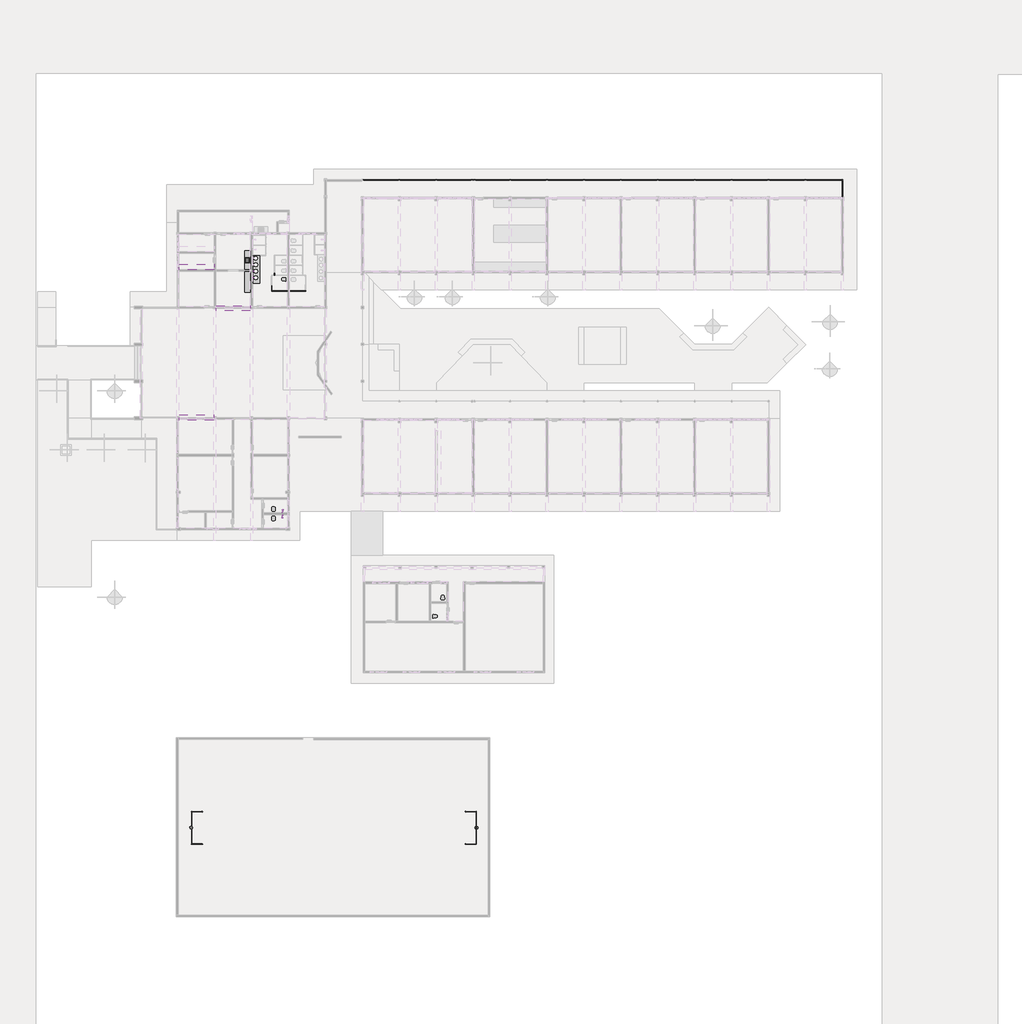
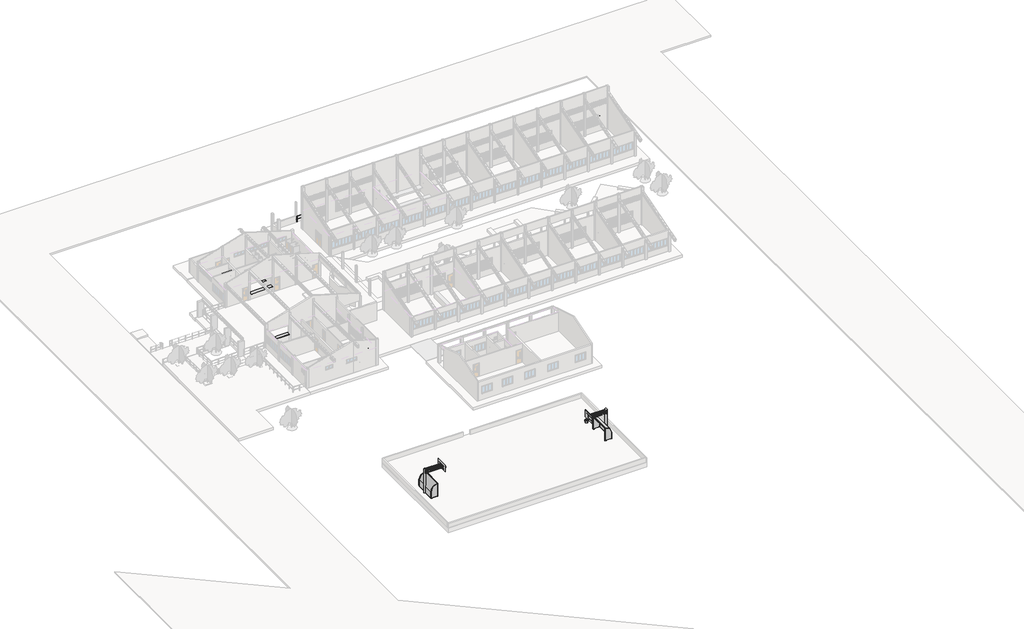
# One storey, part 11 of 12: 10 flow terminals, 10 furniture elements, 4 proxies, 1 railing.
"""IFC4 building model written with IfcOpenShell, lengths in millimetres."""

from ifc_helpers import new_model, si_unit, point, frame, frame_2d, origin, place, context, project, spatial, polyline, circle_curve, ellipse_curve, trimmed, segment, composite_curve, outline, extrude, transform, mapped, element, save
from ifc_brep_helpers import plane_surface, cylinder_surface, advanced_brep
from components import specialty_equipment_e171445e, specialty_equipment_3fbfa655, specialty_equipment_ff35014a, specialty_equipment_ced57a1c, flow_terminal_f470bb56, flow_terminal_20a74c16, flow_terminal_5b9333c3, flow_terminal_6ee619d6, furniture_a3a69743, furniture_79098391, furniture_e4452679, furniture_773e04f6, furniture_dfb6f5b8, furniture_29a2d88c, furniture_17abe1a5

model = new_model("IFC4")

# Units and contexts
model_context = context("Model", 3, world=origin())
ifc_project = project(units=[si_unit("LENGTHUNIT", "METRE", prefix="MILLI")], contexts=[model_context])

# Site, building, storey
site = spatial("IfcSite", under=ifc_project)
building = spatial("IfcBuilding", under=site)
storey = spatial("IfcBuildingStorey", under=building, Name="Nível 1", Elevation=0.0)

# Proxies
placement = place(None, origin())
specialty_equipment_shape = specialty_equipment_e171445e(model_context)
element("IfcBuildingElementProxy", 1, Name="FDE_QE39_QE40_TabelaDeBasquete : QE39_LajeAlveolar", ObjectType="FDE_QE39_QE40_TabelaDeBasquete : QE39_LajeAlveolar", at=placement, inside=storey, context=model_context, shape_type="MappedRepresentation", body=[
    mapped(specialty_equipment_shape, transform((-13439.3145418, -23010.0135509, 550.0), x_axis=(0.0, 1.0, 0.0), y_axis=(-1.0, 0.0, 0.0), z_axis=(0.0, 0.0, 1.0))),
])
specialty_equipment_2_shape = specialty_equipment_3fbfa655(model_context)
element("IfcBuildingElementProxy", 2, Name="FDE_QE03_QE45_QE46_QE47_TraveFutebolSalão : QE46_LajeAlveolar", ObjectType="FDE_QE03_QE45_QE46_QE47_TraveFutebolSalão : QE46_LajeAlveolar", at=placement, inside=storey, context=model_context, shape_type="MappedRepresentation", body=[
    mapped(specialty_equipment_2_shape, transform((-12399.3145418, -23010.0135509, 550.0), x_axis=(0.0, 1.0, 0.0), y_axis=(-1.0, 0.0, 0.0), z_axis=(0.0, 0.0, 1.0))),
])
specialty_equipment_3_shape = specialty_equipment_ff35014a(model_context)
element("IfcBuildingElementProxy", 3, Name="FDE_QE03_QE45_QE46_QE47_TraveFutebolSalão : QE46_LajeAlveolar", ObjectType="FDE_QE03_QE45_QE46_QE47_TraveFutebolSalão : QE46_LajeAlveolar", at=placement, inside=storey, context=model_context, shape_type="MappedRepresentation", body=[
    mapped(specialty_equipment_3_shape, transform((12579.1860657, -23010.0135509, 495.0), x_axis=(0.0, 1.0, 0.0), y_axis=(-1.0, 0.0, 0.0), z_axis=(0.0, 0.0, 1.0))),
])
specialty_equipment_4_shape = specialty_equipment_ced57a1c(model_context)
element("IfcBuildingElementProxy", 4, Name="FDE_QE39_QE40_TabelaDeBasquete : QE39_LajeAlveolar", ObjectType="FDE_QE39_QE40_TabelaDeBasquete : QE39_LajeAlveolar", at=placement, inside=storey, context=model_context, shape_type="MappedRepresentation", body=[
    mapped(specialty_equipment_4_shape, transform((13619.1860657, -23010.0135509, 495.0), x_axis=(0.0, 1.0, 0.0), y_axis=(-1.0, 0.0, 0.0), z_axis=(0.0, 0.0, 1.0))),
])

# Flow terminals
flow_terminal_shape = flow_terminal_f470bb56(model_context)
element("IfcFlowTerminal", 5, ObjectType="Deca Torneira Lavatório : Torneira de Banheiro", at=placement, inside=storey, context=model_context, shape_type="MappedRepresentation", body=[
    mapped(flow_terminal_shape, transform((-7687.9228572, 29773.0485366, 1200.0), x_axis=(-0.004489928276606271, 0.9999899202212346, 0.0), y_axis=(-0.9999899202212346, -0.004489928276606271, 0.0), z_axis=(0.0, 0.0, 1.0))),
])
element("IfcFlowTerminal", 6, ObjectType="Deca Torneira Lavatório : Torneira de Banheiro", at=placement, inside=storey, context=model_context, shape_type="MappedRepresentation", body=[
    mapped(flow_terminal_shape, transform((-7685.0717528, 29155.5549372, 1200.0), x_axis=(-0.004489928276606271, 0.9999899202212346, 0.0), y_axis=(-0.9999899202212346, -0.004489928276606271, 0.0), z_axis=(0.0, 0.0, 1.0))),
])
flow_terminal_2_shape = flow_terminal_20a74c16(model_context)
element("IfcFlowTerminal", 7, ObjectType="Chuveiro : Chuveiro", at=placement, inside=storey, context=model_context, shape_type="MappedRepresentation", body=[
    mapped(flow_terminal_2_shape, transform((-4768.3111843, 6846.1710904, 2300.0), x_axis=(-1.0, 0.0, 0.0), y_axis=(0.0, 0.0, 1.0), z_axis=(0.0, 1.0, 0.0))),
])
element("IfcFlowTerminal", 8, ObjectType="Chuveiro : Chuveiro", at=placement, inside=storey, context=model_context, shape_type="MappedRepresentation", body=[
    mapped(flow_terminal_2_shape, transform((-4768.3111843, 6696.1710904, 2300.0), x_axis=(1.0, 0.0, 0.0), y_axis=(0.0, 0.0, 1.0), z_axis=(0.0, -1.0, 0.0))),
])
flow_terminal_3_shape = flow_terminal_5b9333c3(model_context)
element("IfcFlowTerminal", 9, ObjectType="Cuba_Cozinha : Cuba 40x50", at=placement, inside=storey, context=model_context, shape_type="MappedRepresentation", body=[
    mapped(flow_terminal_3_shape, transform((-8128.4714475, 30806.1862478, 300.0), x_axis=(0.0, -1.0, 0.0), y_axis=(1.0, 0.0, 0.0), z_axis=(0.0, 0.0, 1.0))),
])
flow_terminal_4_shape = flow_terminal_6ee619d6(model_context)
element("IfcFlowTerminal", 10, ObjectType="Deca_Shared_Assento_P.8 : AP.80_Branco Gelo GE17", at=placement, inside=storey, context=model_context, shape_type="MappedRepresentation", body=[
    mapped(flow_terminal_4_shape, transform((-4443.7722934, 28991.3483065, 680.0), x_axis=(0.0, -1.0, 0.0), y_axis=(0.0, 0.0, 1.0), z_axis=(-1.0, 0.0, 0.0))),
])
element("IfcFlowTerminal", 11, ObjectType="Deca_Shared_Assento_P.8 : AP.80_Branco Gelo GE17", at=placement, inside=storey, context=model_context, shape_type="MappedRepresentation", body=[
    mapped(flow_terminal_4_shape, transform((-5638.3111843, 6525.8702445, 680.0), x_axis=(1.0, 0.0, 0.0), y_axis=(0.0, 0.0, 1.0), z_axis=(0.0, -1.0, 0.0))),
])
element("IfcFlowTerminal", 12, ObjectType="Deca_Shared_Assento_P.8 : AP.80_Branco Gelo GE17", at=placement, inside=storey, context=model_context, shape_type="MappedRepresentation", body=[
    mapped(flow_terminal_4_shape, transform((-5638.3111843, 7016.4719363, 680.0), x_axis=(-1.0, 0.0, 0.0), y_axis=(0.0, 0.0, 1.0), z_axis=(0.0, 1.0, 0.0))),
])
element("IfcFlowTerminal", 13, ObjectType="Deca_Shared_Assento_P.8 : AP.80_Branco Gelo GE17", at=placement, inside=storey, context=model_context, shape_type="MappedRepresentation", body=[
    mapped(flow_terminal_4_shape, transform((9446.8293984, -2958.8137522, 680.0), x_axis=(0.0, 1.0, 0.0), y_axis=(0.0, 0.0, 1.0), z_axis=(1.0, 0.0, 0.0))),
])
element("IfcFlowTerminal", 14, ObjectType="Deca_Shared_Assento_P.8 : AP.80_Branco Gelo GE17", at=placement, inside=storey, context=model_context, shape_type="MappedRepresentation", body=[
    mapped(flow_terminal_4_shape, transform((10416.5285525, -1388.4435784, 680.0), x_axis=(-1.0, 0.0, 0.0), y_axis=(0.0, 0.0, 1.0), z_axis=(0.0, 1.0, 0.0))),
])

# Furniture
element("IfcFurniture", 15, ObjectType="Bancada_balcao : Bancada cantina", at=placement, inside=storey, context=model_context, shape_type="SweptSolid", body=[
    extrude(outline(polyline([(-8373.4714475, 31706.1862478), (-7773.4714475, 31706.1862478), (-7773.4714475, 29906.1862478), (-8373.4714475, 29906.1862478), (-8373.4714475, 31706.1862478)]), holes=[composite_curve([segment(trimmed(circle_curve(frame_2d((-8323.4714475, 31051.1862478)), 5.0), [point((-8323.4714475, 31056.1862478))], [point((-8328.4714475, 31051.1862478))], True, "CARTESIAN"), True, "CONTINUOUS"), segment(polyline([(-8328.4714475, 31051.1862478), (-8328.4714475, 30561.1862478)]), True, "CONTINUOUS"), segment(trimmed(circle_curve(frame_2d((-8323.4714475, 30561.1862478)), 5.0), [point((-8328.4714475, 30561.1862478))], [point((-8323.4714475, 30556.1862478))], True, "CARTESIAN"), True, "CONTINUOUS"), segment(polyline([(-8323.4714475, 30556.1862478), (-7933.4714475, 30556.1862478)]), True, "CONTINUOUS"), segment(trimmed(circle_curve(frame_2d((-7933.4714475, 30561.1862478)), 5.0), [point((-7933.4714475, 30556.1862478))], [point((-7928.4714475, 30561.1862478))], True, "CARTESIAN"), True, "CONTINUOUS"), segment(polyline([(-7928.4714475, 30561.1862478), (-7928.4714475, 31051.1862478)]), True, "CONTINUOUS"), segment(trimmed(circle_curve(frame_2d((-7933.4714475, 31051.1862478)), 5.0), [point((-7928.4714475, 31051.1862478))], [point((-7933.4714475, 31056.1862478))], True, "CARTESIAN"), True, "CONTINUOUS"), segment(polyline([(-7933.4714475, 31056.1862478), (-8323.4714475, 31056.1862478)]), True, "CONTINUOUS")], self_intersect=False)]), frame((0.0, 0.0, 1180.0), z_axis=(0.0, 0.0, 1.0), x_axis=(1.0, 0.0, 0.0)), (0.0, 0.0, 1.0), 20.0),
])
element("IfcFurniture", 16, ObjectType="Bancada_balcao : Bancada cantina", at=placement, inside=storey, context=model_context, shape_type="SweptSolid", body=[
    extrude(outline(polyline([(-7623.4714475, 31256.1862478), (-6923.5268603, 31256.1862478), (-6923.5268603, 28609.6163314), (-7623.4714475, 28609.6163314), (-7623.4714475, 31256.1862478)]), holes=[composite_curve([segment(trimmed(circle_curve(frame_2d((-7329.9359136, 31007.6507139)), 182.5445298), [point((-7512.4804435, 31007.6507139))], [point((-7147.3913838, 31007.6507139))], True, "CARTESIAN"), True, "CONTINUOUS"), segment(trimmed(circle_curve(frame_2d((-7329.9359136, 31007.6507139)), 182.5445298), [point((-7147.3913838, 31007.6507139))], [point((-7512.4804435, 31007.6507139))], True, "CARTESIAN"), True, "CONTINUOUS")], self_intersect=False), composite_curve([segment(trimmed(circle_curve(frame_2d((-7323.4714475, 30381.1862478)), 182.5445298), [point((-7506.0159774, 30381.1862478))], [point((-7140.9269177, 30381.1862478))], True, "CARTESIAN"), True, "CONTINUOUS"), segment(trimmed(circle_curve(frame_2d((-7323.4714475, 30381.1862478)), 182.5445298), [point((-7140.9269177, 30381.1862478))], [point((-7506.0159774, 30381.1862478))], True, "CARTESIAN"), True, "CONTINUOUS")], self_intersect=False), composite_curve([segment(trimmed(circle_curve(frame_2d((-7328.4714475, 29771.1862478)), 182.5445298), [point((-7511.0159774, 29771.1862478))], [point((-7145.9269177, 29771.1862478))], True, "CARTESIAN"), True, "CONTINUOUS"), segment(trimmed(circle_curve(frame_2d((-7328.4714475, 29771.1862478)), 182.5445298), [point((-7145.9269177, 29771.1862478))], [point((-7511.0159774, 29771.1862478))], True, "CARTESIAN"), True, "CONTINUOUS")], self_intersect=False), composite_curve([segment(trimmed(circle_curve(frame_2d((-7328.2874863, 29158.0196379)), 182.5445298), [point((-7510.8320161, 29158.0196379))], [point((-7145.7429565, 29158.0196379))], True, "CARTESIAN"), True, "CONTINUOUS"), segment(trimmed(circle_curve(frame_2d((-7328.2874863, 29158.0196379)), 182.5445298), [point((-7145.7429565, 29158.0196379))], [point((-7510.8320161, 29158.0196379))], True, "CARTESIAN"), True, "CONTINUOUS")], self_intersect=False)]), frame((0.0, 0.0, 1180.0), z_axis=(0.0, 0.0, 1.0), x_axis=(1.0, 0.0, 0.0)), (0.0, 0.0, 1.0), 20.0),
])
furniture_shape = furniture_a3a69743(model_context)
element("IfcFurniture", 17, ObjectType="Divisoria_Lateral Fechada : Divisoria_Lateral Fechada_130x180", at=placement, inside=storey, context=model_context, shape_type="MappedRepresentation", body=[
    mapped(furniture_shape, transform((-2624.3644069, 27922.3932502, 300.0), x_axis=(0.0, -1.0, 0.0), y_axis=(1.0, 0.0, 0.0), z_axis=(0.0, 0.0, 1.0))),
])
furniture_2_shape = furniture_79098391(model_context)
element("IfcFurniture", 18, ObjectType="Divisoria_Lateral Fechada : Divisoria_Lateral Fechada_130x180", at=placement, inside=storey, context=model_context, shape_type="MappedRepresentation", body=[
    mapped(furniture_2_shape, transform((-5489.2711211, 29586.1862478, 300.0), x_axis=(-1.0, 0.0, 0.0), y_axis=(0.0, -1.0, 0.0), z_axis=(0.0, 0.0, 1.0))),
])
furniture_3_shape = furniture_e4452679(model_context)
element("IfcFurniture", 19, ObjectType="Divisoria_Lateral Fechada : Divisoria_Lateral Fechada_130x180", at=placement, inside=storey, context=model_context, shape_type="MappedRepresentation", body=[
    mapped(furniture_3_shape, transform((-5764.2626645, 28418.9479891, 300.0), x_axis=(-1.0, 0.0, 0.0), y_axis=(0.0, -1.0, 0.0), z_axis=(0.0, 0.0, 1.0))),
])
furniture_4_shape = furniture_773e04f6(model_context)
element("IfcFurniture", 20, ObjectType="Divisoria_Lateral Fechada : Divisoria_Lateral Fechada_130x180", at=placement, inside=storey, context=model_context, shape_type="MappedRepresentation", body=[
    mapped(furniture_4_shape, transform((-5772.5784882, 27922.3932502, 300.0), x_axis=(0.0, -1.0, 0.0), y_axis=(1.0, 0.0, 0.0), z_axis=(0.0, 0.0, 1.0))),
])
furniture_5_shape = furniture_dfb6f5b8(model_context)
element("IfcFurniture", 21, ObjectType="Bancada_balcao : Bancada cantina", at=placement, inside=storey, context=model_context, shape_type="MappedRepresentation", body=[
    mapped(furniture_5_shape, transform((-9493.2271867, 26506.1797638, 420.0), x_axis=(1.0, 0.0, 0.0), y_axis=(0.0, 1.0, 0.0), z_axis=(0.0, 0.0, 1.0))),
])
element("IfcFurniture", 22, ObjectType="Bancada_balcao : Bancada cantina", at=placement, inside=storey, context=model_context, shape_type="MappedRepresentation", body=[
    mapped(furniture_5_shape, transform((-12993.2271867, 16146.0416644, 420.0), x_axis=(1.0, 0.0, 0.0), y_axis=(0.0, 1.0, 0.0), z_axis=(0.0, 0.0, 1.0))),
])
furniture_6_shape = furniture_29a2d88c(model_context)
element("IfcFurniture", 23, ObjectType="Bancada_balcao : Bancada cantina", at=placement, inside=storey, context=model_context, shape_type="MappedRepresentation", body=[
    mapped(furniture_6_shape, transform((-8373.4714475, 28711.4859213, 300.0), x_axis=(0.0, 1.0, 0.0), y_axis=(-1.0, 0.0, 0.0), z_axis=(0.0, 0.0, 1.0))),
])
furniture_7_shape = furniture_17abe1a5(model_context)
element("IfcFurniture", 24, ObjectType="Prateleira : Prateleira 6", at=placement, inside=storey, context=model_context, shape_type="MappedRepresentation", body=[
    mapped(furniture_7_shape, transform((-13373.0089466, 30380.7862478, 1300.0), x_axis=(1.0, 0.0, 0.0), y_axis=(0.0, 1.0, 0.0), z_axis=(0.0, 0.0, 1.0))),
])

# Railing
element("IfcRailing", 25, ObjectType="900 mm Tubulação", at=placement, inside=storey, context=model_context, shape_type="SolidModel", body=[
    advanced_brep(
    [(48271.5285525, 36781.1862478, 1180.0), (48301.5285525, 36781.1862478, 1180.0), (48331.5285525, 36781.1862478, 1180.0), (48311.5285525, 36781.1862478, 1200.0), (48291.5285525, 36781.1862478, 1200.0), (2876.5285522, 38401.1862478, 1180.0), (2876.5285522, 38421.1862478, 1200.0), (2876.5285522, 38441.1862478, 1200.0), (2876.5285522, 38461.1862478, 1180.0), (2876.5285522, 38431.1862478, 1180.0), (48271.5285525, 38401.1862478, 1180.0), (48301.5285525, 38431.1862478, 1180.0), (48331.5285525, 38461.1862478, 1180.0), (48311.5285525, 38441.1862478, 1200.0), (48291.5285525, 38421.1862478, 1200.0)],
    [
        (0, 1),
        (1, 2),
        (2, 3, circle_curve(frame((48311.5285525, 36781.1862478, 1180.0), z_axis=(0.0, -1.0, 0.0), x_axis=(-1.0, 0.0, 0.0)), 20.0)),
        (3, 4),
        (4, 0, circle_curve(frame((48291.5285525, 36781.1862478, 1180.0), z_axis=(0.0, -1.0, 0.0), x_axis=(-1.0, 0.0, 0.0)), 20.0)),
        (5, 6, circle_curve(frame((2876.5285522, 38421.1862478, 1180.0), z_axis=(-1.0, 0.0, 0.0), x_axis=(0.0, -1.0, 0.0)), 20.0)),
        (6, 7),
        (7, 8, circle_curve(frame((2876.5285522, 38441.1862478, 1180.0), z_axis=(-1.0, 0.0, 0.0), x_axis=(0.0, -1.0, 0.0)), 20.0)),
        (8, 9),
        (9, 5),
        (0, 10),
        (10, 11),
        (11, 1),
        (11, 12),
        (12, 2),
        (12, 13, ellipse_curve(frame((48311.5285525, 38441.1862478, 1180.0), z_axis=(0.7071067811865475, -0.7071067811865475, 0.0), x_axis=(-0.7071067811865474, -0.7071067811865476, 0.0)), 28.2842712, 20.0)),
        (13, 3),
        (13, 14),
        (14, 4),
        (14, 10, ellipse_curve(frame((48291.5285525, 38421.1862478, 1180.0), z_axis=(0.7071067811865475, -0.7071067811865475, 0.0), x_axis=(-0.7071067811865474, -0.7071067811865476, 0.0)), 28.2842712, 20.0)),
        (10, 5),
        (9, 11),
        (8, 12),
        (7, 13),
        (6, 14),
    ],
    [
        plane_surface(frame((48301.5285525, 36781.1862478, 1200.0), z_axis=(0.0, -1.0, 0.0), x_axis=(0.0, 0.0, 1.0))),
        plane_surface(frame((2876.5285522, 38431.1862478, 1200.0), z_axis=(-1.0, 0.0, 0.0), x_axis=(0.0, -1.0, 0.0))),
        plane_surface(frame((48271.5285525, 36781.1862478, 1180.0), z_axis=(0.0, 0.0, -1.0), x_axis=(0.0, 1.0, 0.0))),
        plane_surface(frame((48301.5285525, 36781.1862478, 1180.0), z_axis=(0.0, 0.0, -1.0), x_axis=(0.0, 1.0, 0.0))),
        cylinder_surface(frame((48311.5285525, 36781.1862478, 1180.0), z_axis=(0.0, -1.0, 0.0), x_axis=(-1.0, 0.0, 0.0)), 20.0),
        plane_surface(frame((48311.5285525, 36781.1862478, 1200.0), z_axis=(0.0, 0.0, 1.0), x_axis=(0.0, 1.0, 0.0))),
        cylinder_surface(frame((48291.5285525, 36781.1862478, 1180.0), z_axis=(0.0, -1.0, 0.0), x_axis=(-1.0, 0.0, 0.0)), 20.0),
        plane_surface(frame((48271.5285525, 38401.1862478, 1180.0), z_axis=(0.0, 0.0, -1.0), x_axis=(-1.0, 0.0, 0.0))),
        plane_surface(frame((48301.5285525, 38431.1862478, 1180.0), z_axis=(0.0, 0.0, -1.0), x_axis=(-1.0, 0.0, 0.0))),
        cylinder_surface(frame((48301.5285525, 38441.1862478, 1180.0), z_axis=(1.0, 0.0, 0.0), x_axis=(0.0, -1.0, 0.0)), 20.0),
        plane_surface(frame((48311.5285525, 38441.1862478, 1200.0), z_axis=(0.0, 0.0, 1.0), x_axis=(-1.0, 0.0, 0.0))),
        cylinder_surface(frame((48301.5285525, 38421.1862478, 1180.0), z_axis=(1.0, 0.0, 0.0), x_axis=(0.0, -1.0, 0.0)), 20.0),
    ],
    [
        (0, [[1, 2, 3, 4, 5]]),
        (1, [[6, 7, 8, 9, 10]]),
        (2, [[-1, 11, 12, 13]]),
        (3, [[-2, -13, 14, 15]]),
        (4, [[-3, -15, 16, 17]]),
        (5, [[-4, -17, 18, 19]]),
        (6, [[-5, -19, 20, -11]]),
        (7, [[-12, 21, -10, 22]]),
        (8, [[-14, -22, -9, 23]]),
        (9, [[-16, -23, -8, 24]]),
        (10, [[-18, -24, -7, 25]]),
        (11, [[-20, -25, -6, -21]]),
    ],
),
    advanced_brep(
    [(48286.5285525, 36781.1862478, 1185.0), (48316.5285525, 36781.1862478, 1185.0), (48286.5285525, 38416.1862478, 1185.0), (48316.5285525, 38446.1862478, 1185.0), (2876.5285522, 38416.1862478, 1185.0), (2876.5285522, 38446.1862478, 1185.0)],
    [
        (0, 1, circle_curve(frame((48301.5285525, 36781.1862478, 1185.0), z_axis=(0.0, -1.0, 0.0), x_axis=(1.0, 0.0, 0.0)), 15.0)),
        (1, 0, circle_curve(frame((48301.5285525, 36781.1862478, 1185.0), z_axis=(0.0, -1.0, 0.0), x_axis=(1.0, 0.0, 0.0)), 15.0)),
        (0, 2),
        (2, 3, ellipse_curve(frame((48301.5285525, 38431.1862478, 1185.0), z_axis=(0.7071067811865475, -0.7071067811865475, 0.0), x_axis=(-0.7071067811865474, -0.7071067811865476, 0.0)), 21.2132034, 15.0)),
        (3, 1),
        (3, 2, ellipse_curve(frame((48301.5285525, 38431.1862478, 1185.0), z_axis=(0.7071067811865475, -0.7071067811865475, 0.0), x_axis=(-0.7071067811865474, -0.7071067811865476, 0.0)), 21.2132034, 15.0)),
        (4, 5, circle_curve(frame((2876.5285522, 38431.1862478, 1185.0), z_axis=(-1.0, 0.0, 0.0), x_axis=(0.0, 1.0, 0.0)), 15.0)),
        (5, 4, circle_curve(frame((2876.5285522, 38431.1862478, 1185.0), z_axis=(-1.0, 0.0, 0.0), x_axis=(0.0, 1.0, 0.0)), 15.0)),
        (2, 4),
        (5, 3),
    ],
    [
        plane_surface(frame((48301.5285525, 36781.1862478, 1200.0), z_axis=(0.0, -1.0, 0.0), x_axis=(0.0, 0.0, 1.0))),
        cylinder_surface(frame((48301.5285525, 36781.1862478, 1185.0), z_axis=(0.0, -1.0, 0.0), x_axis=(1.0, 0.0, 0.0)), 15.0),
        plane_surface(frame((2876.5285522, 38431.1862478, 1200.0), z_axis=(-1.0, 0.0, 0.0), x_axis=(0.0, -1.0, 0.0))),
        cylinder_surface(frame((48301.5285525, 38431.1862478, 1185.0), z_axis=(1.0, 0.0, 0.0), x_axis=(0.0, 1.0, 0.0)), 15.0),
    ],
    [
        (0, [[1, 2]]),
        (1, [[-1, 3, 4, 5]]),
        (1, [[-2, -5, 6, -3]]),
        (2, [[7, 8]]),
        (3, [[-4, 9, -8, 10]]),
        (3, [[-6, -10, -7, -9]]),
    ],
),
    advanced_brep(
    [(48286.5285525, 36781.1862478, 735.0), (48316.5285525, 36781.1862478, 735.0), (48286.5285525, 38416.1862478, 735.0), (48316.5285525, 38446.1862478, 735.0), (2876.5285522, 38416.1862478, 735.0), (2876.5285522, 38446.1862478, 735.0)],
    [
        (0, 1, circle_curve(frame((48301.5285525, 36781.1862478, 735.0), z_axis=(0.0, -1.0, 0.0), x_axis=(1.0, 0.0, 0.0)), 15.0)),
        (1, 0, circle_curve(frame((48301.5285525, 36781.1862478, 735.0), z_axis=(0.0, -1.0, 0.0), x_axis=(1.0, 0.0, 0.0)), 15.0)),
        (0, 2),
        (2, 3, ellipse_curve(frame((48301.5285525, 38431.1862478, 735.0), z_axis=(0.7071067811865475, -0.7071067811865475, 0.0), x_axis=(-0.7071067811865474, -0.7071067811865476, 0.0)), 21.2132034, 15.0)),
        (3, 1),
        (3, 2, ellipse_curve(frame((48301.5285525, 38431.1862478, 735.0), z_axis=(0.7071067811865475, -0.7071067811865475, 0.0), x_axis=(-0.7071067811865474, -0.7071067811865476, 0.0)), 21.2132034, 15.0)),
        (4, 5, circle_curve(frame((2876.5285522, 38431.1862478, 735.0), z_axis=(-1.0, 0.0, 0.0), x_axis=(0.0, 1.0, 0.0)), 15.0)),
        (5, 4, circle_curve(frame((2876.5285522, 38431.1862478, 735.0), z_axis=(-1.0, 0.0, 0.0), x_axis=(0.0, 1.0, 0.0)), 15.0)),
        (2, 4),
        (5, 3),
    ],
    [
        plane_surface(frame((48301.5285525, 36781.1862478, 750.0), z_axis=(0.0, -1.0, 0.0), x_axis=(0.0, 0.0, 1.0))),
        cylinder_surface(frame((48301.5285525, 36781.1862478, 735.0), z_axis=(0.0, -1.0, 0.0), x_axis=(1.0, 0.0, 0.0)), 15.0),
        plane_surface(frame((2876.5285522, 38431.1862478, 750.0), z_axis=(-1.0, 0.0, 0.0), x_axis=(0.0, -1.0, 0.0))),
        cylinder_surface(frame((48301.5285525, 38431.1862478, 735.0), z_axis=(1.0, 0.0, 0.0), x_axis=(0.0, 1.0, 0.0)), 15.0),
    ],
    [
        (0, [[1, 2]]),
        (1, [[-1, 3, 4, 5]]),
        (1, [[-2, -5, 6, -3]]),
        (2, [[7, 8]]),
        (3, [[-4, 9, -8, 10]]),
        (3, [[-6, -10, -7, -9]]),
    ],
),
    extrude(outline(composite_curve([segment(trimmed(circle_curve(frame_2d((2951.5285525, 38431.1862478)), 12.5), [point((2951.5285525, 38418.6862478))], [point((2951.5285525, 38443.6862478))], False, "CARTESIAN"), True, "CONTINUOUS"), segment(trimmed(circle_curve(frame_2d((2951.5285525, 38431.1862478)), 12.5), [point((2951.5285525, 38443.6862478))], [point((2951.5285525, 38418.6862478))], False, "CARTESIAN"), True, "CONTINUOUS")], self_intersect=False)), frame((0.0, 0.0, 300.0), z_axis=(0.0, 0.0, 1.0), x_axis=(1.0, 0.0, 0.0)), (0.0, 0.0, 1.0), 870.0),
    extrude(outline(composite_curve([segment(trimmed(circle_curve(frame_2d((3951.5285525, 38431.1862478)), 12.5), [point((3951.5285525, 38418.6862478))], [point((3951.5285525, 38443.6862478))], False, "CARTESIAN"), True, "CONTINUOUS"), segment(trimmed(circle_curve(frame_2d((3951.5285525, 38431.1862478)), 12.5), [point((3951.5285525, 38443.6862478))], [point((3951.5285525, 38418.6862478))], False, "CARTESIAN"), True, "CONTINUOUS")], self_intersect=False)), frame((0.0, 0.0, 300.0), z_axis=(0.0, 0.0, 1.0), x_axis=(1.0, 0.0, 0.0)), (0.0, 0.0, 1.0), 870.0),
    extrude(outline(composite_curve([segment(trimmed(circle_curve(frame_2d((4951.5285525, 38431.1862478)), 12.5), [point((4951.5285525, 38418.6862478))], [point((4951.5285525, 38443.6862478))], False, "CARTESIAN"), True, "CONTINUOUS"), segment(trimmed(circle_curve(frame_2d((4951.5285525, 38431.1862478)), 12.5), [point((4951.5285525, 38443.6862478))], [point((4951.5285525, 38418.6862478))], False, "CARTESIAN"), True, "CONTINUOUS")], self_intersect=False)), frame((0.0, 0.0, 300.0), z_axis=(0.0, 0.0, 1.0), x_axis=(1.0, 0.0, 0.0)), (0.0, 0.0, 1.0), 870.0),
    extrude(outline(composite_curve([segment(trimmed(circle_curve(frame_2d((5951.5285525, 38431.1862478)), 12.5), [point((5951.5285525, 38418.6862478))], [point((5951.5285525, 38443.6862478))], False, "CARTESIAN"), True, "CONTINUOUS"), segment(trimmed(circle_curve(frame_2d((5951.5285525, 38431.1862478)), 12.5), [point((5951.5285525, 38443.6862478))], [point((5951.5285525, 38418.6862478))], False, "CARTESIAN"), True, "CONTINUOUS")], self_intersect=False)), frame((0.0, 0.0, 300.0), z_axis=(0.0, 0.0, 1.0), x_axis=(1.0, 0.0, 0.0)), (0.0, 0.0, 1.0), 870.0),
    extrude(outline(composite_curve([segment(trimmed(circle_curve(frame_2d((6951.5285525, 38431.1862478)), 12.5), [point((6951.5285525, 38418.6862478))], [point((6951.5285525, 38443.6862478))], False, "CARTESIAN"), True, "CONTINUOUS"), segment(trimmed(circle_curve(frame_2d((6951.5285525, 38431.1862478)), 12.5), [point((6951.5285525, 38443.6862478))], [point((6951.5285525, 38418.6862478))], False, "CARTESIAN"), True, "CONTINUOUS")], self_intersect=False)), frame((0.0, 0.0, 300.0), z_axis=(0.0, 0.0, 1.0), x_axis=(1.0, 0.0, 0.0)), (0.0, 0.0, 1.0), 870.0),
    extrude(outline(composite_curve([segment(trimmed(circle_curve(frame_2d((7951.5285525, 38431.1862478)), 12.5), [point((7951.5285525, 38418.6862478))], [point((7951.5285525, 38443.6862478))], False, "CARTESIAN"), True, "CONTINUOUS"), segment(trimmed(circle_curve(frame_2d((7951.5285525, 38431.1862478)), 12.5), [point((7951.5285525, 38443.6862478))], [point((7951.5285525, 38418.6862478))], False, "CARTESIAN"), True, "CONTINUOUS")], self_intersect=False)), frame((0.0, 0.0, 300.0), z_axis=(0.0, 0.0, 1.0), x_axis=(1.0, 0.0, 0.0)), (0.0, 0.0, 1.0), 870.0),
    extrude(outline(composite_curve([segment(trimmed(circle_curve(frame_2d((8951.5285525, 38431.1862478)), 12.5), [point((8951.5285525, 38418.6862478))], [point((8951.5285525, 38443.6862478))], False, "CARTESIAN"), True, "CONTINUOUS"), segment(trimmed(circle_curve(frame_2d((8951.5285525, 38431.1862478)), 12.5), [point((8951.5285525, 38443.6862478))], [point((8951.5285525, 38418.6862478))], False, "CARTESIAN"), True, "CONTINUOUS")], self_intersect=False)), frame((0.0, 0.0, 300.0), z_axis=(0.0, 0.0, 1.0), x_axis=(1.0, 0.0, 0.0)), (0.0, 0.0, 1.0), 870.0),
    extrude(outline(composite_curve([segment(trimmed(circle_curve(frame_2d((9951.5285525, 38431.1862478)), 12.5), [point((9951.5285525, 38418.6862478))], [point((9951.5285525, 38443.6862478))], False, "CARTESIAN"), True, "CONTINUOUS"), segment(trimmed(circle_curve(frame_2d((9951.5285525, 38431.1862478)), 12.5), [point((9951.5285525, 38443.6862478))], [point((9951.5285525, 38418.6862478))], False, "CARTESIAN"), True, "CONTINUOUS")], self_intersect=False)), frame((0.0, 0.0, 300.0), z_axis=(0.0, 0.0, 1.0), x_axis=(1.0, 0.0, 0.0)), (0.0, 0.0, 1.0), 870.0),
    extrude(outline(composite_curve([segment(trimmed(circle_curve(frame_2d((10951.5285525, 38431.1862478)), 12.5), [point((10951.5285525, 38418.6862478))], [point((10951.5285525, 38443.6862478))], False, "CARTESIAN"), True, "CONTINUOUS"), segment(trimmed(circle_curve(frame_2d((10951.5285525, 38431.1862478)), 12.5), [point((10951.5285525, 38443.6862478))], [point((10951.5285525, 38418.6862478))], False, "CARTESIAN"), True, "CONTINUOUS")], self_intersect=False)), frame((0.0, 0.0, 300.0), z_axis=(0.0, 0.0, 1.0), x_axis=(1.0, 0.0, 0.0)), (0.0, 0.0, 1.0), 870.0),
    extrude(outline(composite_curve([segment(trimmed(circle_curve(frame_2d((11951.5285525, 38431.1862478)), 12.5), [point((11951.5285525, 38418.6862478))], [point((11951.5285525, 38443.6862478))], False, "CARTESIAN"), True, "CONTINUOUS"), segment(trimmed(circle_curve(frame_2d((11951.5285525, 38431.1862478)), 12.5), [point((11951.5285525, 38443.6862478))], [point((11951.5285525, 38418.6862478))], False, "CARTESIAN"), True, "CONTINUOUS")], self_intersect=False)), frame((0.0, 0.0, 300.0), z_axis=(0.0, 0.0, 1.0), x_axis=(1.0, 0.0, 0.0)), (0.0, 0.0, 1.0), 870.0),
    extrude(outline(composite_curve([segment(trimmed(circle_curve(frame_2d((12951.5285525, 38431.1862478)), 12.5), [point((12951.5285525, 38418.6862478))], [point((12951.5285525, 38443.6862478))], False, "CARTESIAN"), True, "CONTINUOUS"), segment(trimmed(circle_curve(frame_2d((12951.5285525, 38431.1862478)), 12.5), [point((12951.5285525, 38443.6862478))], [point((12951.5285525, 38418.6862478))], False, "CARTESIAN"), True, "CONTINUOUS")], self_intersect=False)), frame((0.0, 0.0, 300.0), z_axis=(0.0, 0.0, 1.0), x_axis=(1.0, 0.0, 0.0)), (0.0, 0.0, 1.0), 870.0),
    extrude(outline(composite_curve([segment(trimmed(circle_curve(frame_2d((13951.5285525, 38431.1862478)), 12.5), [point((13951.5285525, 38418.6862478))], [point((13951.5285525, 38443.6862478))], False, "CARTESIAN"), True, "CONTINUOUS"), segment(trimmed(circle_curve(frame_2d((13951.5285525, 38431.1862478)), 12.5), [point((13951.5285525, 38443.6862478))], [point((13951.5285525, 38418.6862478))], False, "CARTESIAN"), True, "CONTINUOUS")], self_intersect=False)), frame((0.0, 0.0, 300.0), z_axis=(0.0, 0.0, 1.0), x_axis=(1.0, 0.0, 0.0)), (0.0, 0.0, 1.0), 870.0),
    extrude(outline(composite_curve([segment(trimmed(circle_curve(frame_2d((14951.5285525, 38431.1862478)), 12.5), [point((14951.5285525, 38418.6862478))], [point((14951.5285525, 38443.6862478))], False, "CARTESIAN"), True, "CONTINUOUS"), segment(trimmed(circle_curve(frame_2d((14951.5285525, 38431.1862478)), 12.5), [point((14951.5285525, 38443.6862478))], [point((14951.5285525, 38418.6862478))], False, "CARTESIAN"), True, "CONTINUOUS")], self_intersect=False)), frame((0.0, 0.0, 300.0), z_axis=(0.0, 0.0, 1.0), x_axis=(1.0, 0.0, 0.0)), (0.0, 0.0, 1.0), 870.0),
    extrude(outline(composite_curve([segment(trimmed(circle_curve(frame_2d((15951.5285525, 38431.1862478)), 12.5), [point((15951.5285525, 38418.6862478))], [point((15951.5285525, 38443.6862478))], False, "CARTESIAN"), True, "CONTINUOUS"), segment(trimmed(circle_curve(frame_2d((15951.5285525, 38431.1862478)), 12.5), [point((15951.5285525, 38443.6862478))], [point((15951.5285525, 38418.6862478))], False, "CARTESIAN"), True, "CONTINUOUS")], self_intersect=False)), frame((0.0, 0.0, 300.0), z_axis=(0.0, 0.0, 1.0), x_axis=(1.0, 0.0, 0.0)), (0.0, 0.0, 1.0), 870.0),
    extrude(outline(composite_curve([segment(trimmed(circle_curve(frame_2d((16951.5285525, 38431.1862478)), 12.5), [point((16951.5285525, 38418.6862478))], [point((16951.5285525, 38443.6862478))], False, "CARTESIAN"), True, "CONTINUOUS"), segment(trimmed(circle_curve(frame_2d((16951.5285525, 38431.1862478)), 12.5), [point((16951.5285525, 38443.6862478))], [point((16951.5285525, 38418.6862478))], False, "CARTESIAN"), True, "CONTINUOUS")], self_intersect=False)), frame((0.0, 0.0, 300.0), z_axis=(0.0, 0.0, 1.0), x_axis=(1.0, 0.0, 0.0)), (0.0, 0.0, 1.0), 870.0),
    extrude(outline(composite_curve([segment(trimmed(circle_curve(frame_2d((17951.5285525, 38431.1862478)), 12.5), [point((17951.5285525, 38418.6862478))], [point((17951.5285525, 38443.6862478))], False, "CARTESIAN"), True, "CONTINUOUS"), segment(trimmed(circle_curve(frame_2d((17951.5285525, 38431.1862478)), 12.5), [point((17951.5285525, 38443.6862478))], [point((17951.5285525, 38418.6862478))], False, "CARTESIAN"), True, "CONTINUOUS")], self_intersect=False)), frame((0.0, 0.0, 300.0), z_axis=(0.0, 0.0, 1.0), x_axis=(1.0, 0.0, 0.0)), (0.0, 0.0, 1.0), 870.0),
    extrude(outline(composite_curve([segment(trimmed(circle_curve(frame_2d((18951.5285525, 38431.1862478)), 12.5), [point((18951.5285525, 38418.6862478))], [point((18951.5285525, 38443.6862478))], False, "CARTESIAN"), True, "CONTINUOUS"), segment(trimmed(circle_curve(frame_2d((18951.5285525, 38431.1862478)), 12.5), [point((18951.5285525, 38443.6862478))], [point((18951.5285525, 38418.6862478))], False, "CARTESIAN"), True, "CONTINUOUS")], self_intersect=False)), frame((0.0, 0.0, 300.0), z_axis=(0.0, 0.0, 1.0), x_axis=(1.0, 0.0, 0.0)), (0.0, 0.0, 1.0), 870.0),
    extrude(outline(composite_curve([segment(trimmed(circle_curve(frame_2d((19951.5285525, 38431.1862478)), 12.5), [point((19951.5285525, 38418.6862478))], [point((19951.5285525, 38443.6862478))], False, "CARTESIAN"), True, "CONTINUOUS"), segment(trimmed(circle_curve(frame_2d((19951.5285525, 38431.1862478)), 12.5), [point((19951.5285525, 38443.6862478))], [point((19951.5285525, 38418.6862478))], False, "CARTESIAN"), True, "CONTINUOUS")], self_intersect=False)), frame((0.0, 0.0, 300.0), z_axis=(0.0, 0.0, 1.0), x_axis=(1.0, 0.0, 0.0)), (0.0, 0.0, 1.0), 870.0),
    extrude(outline(composite_curve([segment(trimmed(circle_curve(frame_2d((20951.5285525, 38431.1862478)), 12.5), [point((20951.5285525, 38418.6862478))], [point((20951.5285525, 38443.6862478))], False, "CARTESIAN"), True, "CONTINUOUS"), segment(trimmed(circle_curve(frame_2d((20951.5285525, 38431.1862478)), 12.5), [point((20951.5285525, 38443.6862478))], [point((20951.5285525, 38418.6862478))], False, "CARTESIAN"), True, "CONTINUOUS")], self_intersect=False)), frame((0.0, 0.0, 300.0), z_axis=(0.0, 0.0, 1.0), x_axis=(1.0, 0.0, 0.0)), (0.0, 0.0, 1.0), 870.0),
    extrude(outline(composite_curve([segment(trimmed(circle_curve(frame_2d((21951.5285525, 38431.1862478)), 12.5), [point((21951.5285525, 38418.6862478))], [point((21951.5285525, 38443.6862478))], False, "CARTESIAN"), True, "CONTINUOUS"), segment(trimmed(circle_curve(frame_2d((21951.5285525, 38431.1862478)), 12.5), [point((21951.5285525, 38443.6862478))], [point((21951.5285525, 38418.6862478))], False, "CARTESIAN"), True, "CONTINUOUS")], self_intersect=False)), frame((0.0, 0.0, 300.0), z_axis=(0.0, 0.0, 1.0), x_axis=(1.0, 0.0, 0.0)), (0.0, 0.0, 1.0), 870.0),
    extrude(outline(composite_curve([segment(trimmed(circle_curve(frame_2d((22951.5285525, 38431.1862478)), 12.5), [point((22951.5285525, 38418.6862478))], [point((22951.5285525, 38443.6862478))], False, "CARTESIAN"), True, "CONTINUOUS"), segment(trimmed(circle_curve(frame_2d((22951.5285525, 38431.1862478)), 12.5), [point((22951.5285525, 38443.6862478))], [point((22951.5285525, 38418.6862478))], False, "CARTESIAN"), True, "CONTINUOUS")], self_intersect=False)), frame((0.0, 0.0, 300.0), z_axis=(0.0, 0.0, 1.0), x_axis=(1.0, 0.0, 0.0)), (0.0, 0.0, 1.0), 870.0),
    extrude(outline(composite_curve([segment(trimmed(circle_curve(frame_2d((23951.5285525, 38431.1862478)), 12.5), [point((23951.5285525, 38418.6862478))], [point((23951.5285525, 38443.6862478))], False, "CARTESIAN"), True, "CONTINUOUS"), segment(trimmed(circle_curve(frame_2d((23951.5285525, 38431.1862478)), 12.5), [point((23951.5285525, 38443.6862478))], [point((23951.5285525, 38418.6862478))], False, "CARTESIAN"), True, "CONTINUOUS")], self_intersect=False)), frame((0.0, 0.0, 300.0), z_axis=(0.0, 0.0, 1.0), x_axis=(1.0, 0.0, 0.0)), (0.0, 0.0, 1.0), 870.0),
    extrude(outline(composite_curve([segment(trimmed(circle_curve(frame_2d((24951.5285525, 38431.1862478)), 12.5), [point((24951.5285525, 38418.6862478))], [point((24951.5285525, 38443.6862478))], False, "CARTESIAN"), True, "CONTINUOUS"), segment(trimmed(circle_curve(frame_2d((24951.5285525, 38431.1862478)), 12.5), [point((24951.5285525, 38443.6862478))], [point((24951.5285525, 38418.6862478))], False, "CARTESIAN"), True, "CONTINUOUS")], self_intersect=False)), frame((0.0, 0.0, 300.0), z_axis=(0.0, 0.0, 1.0), x_axis=(1.0, 0.0, 0.0)), (0.0, 0.0, 1.0), 870.0),
    extrude(outline(composite_curve([segment(trimmed(circle_curve(frame_2d((25951.5285525, 38431.1862478)), 12.5), [point((25951.5285525, 38418.6862478))], [point((25951.5285525, 38443.6862478))], False, "CARTESIAN"), True, "CONTINUOUS"), segment(trimmed(circle_curve(frame_2d((25951.5285525, 38431.1862478)), 12.5), [point((25951.5285525, 38443.6862478))], [point((25951.5285525, 38418.6862478))], False, "CARTESIAN"), True, "CONTINUOUS")], self_intersect=False)), frame((0.0, 0.0, 300.0), z_axis=(0.0, 0.0, 1.0), x_axis=(1.0, 0.0, 0.0)), (0.0, 0.0, 1.0), 870.0),
    extrude(outline(composite_curve([segment(trimmed(circle_curve(frame_2d((26951.5285525, 38431.1862478)), 12.5), [point((26951.5285525, 38418.6862478))], [point((26951.5285525, 38443.6862478))], False, "CARTESIAN"), True, "CONTINUOUS"), segment(trimmed(circle_curve(frame_2d((26951.5285525, 38431.1862478)), 12.5), [point((26951.5285525, 38443.6862478))], [point((26951.5285525, 38418.6862478))], False, "CARTESIAN"), True, "CONTINUOUS")], self_intersect=False)), frame((0.0, 0.0, 300.0), z_axis=(0.0, 0.0, 1.0), x_axis=(1.0, 0.0, 0.0)), (0.0, 0.0, 1.0), 870.0),
    extrude(outline(composite_curve([segment(trimmed(circle_curve(frame_2d((27951.5285525, 38431.1862478)), 12.5), [point((27951.5285525, 38418.6862478))], [point((27951.5285525, 38443.6862478))], False, "CARTESIAN"), True, "CONTINUOUS"), segment(trimmed(circle_curve(frame_2d((27951.5285525, 38431.1862478)), 12.5), [point((27951.5285525, 38443.6862478))], [point((27951.5285525, 38418.6862478))], False, "CARTESIAN"), True, "CONTINUOUS")], self_intersect=False)), frame((0.0, 0.0, 300.0), z_axis=(0.0, 0.0, 1.0), x_axis=(1.0, 0.0, 0.0)), (0.0, 0.0, 1.0), 870.0),
    extrude(outline(composite_curve([segment(trimmed(circle_curve(frame_2d((28951.5285525, 38431.1862478)), 12.5), [point((28951.5285525, 38418.6862478))], [point((28951.5285525, 38443.6862478))], False, "CARTESIAN"), True, "CONTINUOUS"), segment(trimmed(circle_curve(frame_2d((28951.5285525, 38431.1862478)), 12.5), [point((28951.5285525, 38443.6862478))], [point((28951.5285525, 38418.6862478))], False, "CARTESIAN"), True, "CONTINUOUS")], self_intersect=False)), frame((0.0, 0.0, 300.0), z_axis=(0.0, 0.0, 1.0), x_axis=(1.0, 0.0, 0.0)), (0.0, 0.0, 1.0), 870.0),
    extrude(outline(composite_curve([segment(trimmed(circle_curve(frame_2d((29951.5285525, 38431.1862478)), 12.5), [point((29951.5285525, 38418.6862478))], [point((29951.5285525, 38443.6862478))], False, "CARTESIAN"), True, "CONTINUOUS"), segment(trimmed(circle_curve(frame_2d((29951.5285525, 38431.1862478)), 12.5), [point((29951.5285525, 38443.6862478))], [point((29951.5285525, 38418.6862478))], False, "CARTESIAN"), True, "CONTINUOUS")], self_intersect=False)), frame((0.0, 0.0, 300.0), z_axis=(0.0, 0.0, 1.0), x_axis=(1.0, 0.0, 0.0)), (0.0, 0.0, 1.0), 870.0),
    extrude(outline(composite_curve([segment(trimmed(circle_curve(frame_2d((30951.5285525, 38431.1862478)), 12.5), [point((30951.5285525, 38418.6862478))], [point((30951.5285525, 38443.6862478))], False, "CARTESIAN"), True, "CONTINUOUS"), segment(trimmed(circle_curve(frame_2d((30951.5285525, 38431.1862478)), 12.5), [point((30951.5285525, 38443.6862478))], [point((30951.5285525, 38418.6862478))], False, "CARTESIAN"), True, "CONTINUOUS")], self_intersect=False)), frame((0.0, 0.0, 300.0), z_axis=(0.0, 0.0, 1.0), x_axis=(1.0, 0.0, 0.0)), (0.0, 0.0, 1.0), 870.0),
    extrude(outline(composite_curve([segment(trimmed(circle_curve(frame_2d((31951.5285525, 38431.1862478)), 12.5), [point((31951.5285525, 38418.6862478))], [point((31951.5285525, 38443.6862478))], False, "CARTESIAN"), True, "CONTINUOUS"), segment(trimmed(circle_curve(frame_2d((31951.5285525, 38431.1862478)), 12.5), [point((31951.5285525, 38443.6862478))], [point((31951.5285525, 38418.6862478))], False, "CARTESIAN"), True, "CONTINUOUS")], self_intersect=False)), frame((0.0, 0.0, 300.0), z_axis=(0.0, 0.0, 1.0), x_axis=(1.0, 0.0, 0.0)), (0.0, 0.0, 1.0), 870.0),
    extrude(outline(composite_curve([segment(trimmed(circle_curve(frame_2d((32951.5285525, 38431.1862478)), 12.5), [point((32951.5285525, 38418.6862478))], [point((32951.5285525, 38443.6862478))], False, "CARTESIAN"), True, "CONTINUOUS"), segment(trimmed(circle_curve(frame_2d((32951.5285525, 38431.1862478)), 12.5), [point((32951.5285525, 38443.6862478))], [point((32951.5285525, 38418.6862478))], False, "CARTESIAN"), True, "CONTINUOUS")], self_intersect=False)), frame((0.0, 0.0, 300.0), z_axis=(0.0, 0.0, 1.0), x_axis=(1.0, 0.0, 0.0)), (0.0, 0.0, 1.0), 870.0),
    extrude(outline(composite_curve([segment(trimmed(circle_curve(frame_2d((33951.5285525, 38431.1862478)), 12.5), [point((33951.5285525, 38418.6862478))], [point((33951.5285525, 38443.6862478))], False, "CARTESIAN"), True, "CONTINUOUS"), segment(trimmed(circle_curve(frame_2d((33951.5285525, 38431.1862478)), 12.5), [point((33951.5285525, 38443.6862478))], [point((33951.5285525, 38418.6862478))], False, "CARTESIAN"), True, "CONTINUOUS")], self_intersect=False)), frame((0.0, 0.0, 300.0), z_axis=(0.0, 0.0, 1.0), x_axis=(1.0, 0.0, 0.0)), (0.0, 0.0, 1.0), 870.0),
    extrude(outline(composite_curve([segment(trimmed(circle_curve(frame_2d((34951.5285525, 38431.1862478)), 12.5), [point((34951.5285525, 38418.6862478))], [point((34951.5285525, 38443.6862478))], False, "CARTESIAN"), True, "CONTINUOUS"), segment(trimmed(circle_curve(frame_2d((34951.5285525, 38431.1862478)), 12.5), [point((34951.5285525, 38443.6862478))], [point((34951.5285525, 38418.6862478))], False, "CARTESIAN"), True, "CONTINUOUS")], self_intersect=False)), frame((0.0, 0.0, 300.0), z_axis=(0.0, 0.0, 1.0), x_axis=(1.0, 0.0, 0.0)), (0.0, 0.0, 1.0), 870.0),
    extrude(outline(composite_curve([segment(trimmed(circle_curve(frame_2d((35951.5285525, 38431.1862478)), 12.5), [point((35951.5285525, 38418.6862478))], [point((35951.5285525, 38443.6862478))], False, "CARTESIAN"), True, "CONTINUOUS"), segment(trimmed(circle_curve(frame_2d((35951.5285525, 38431.1862478)), 12.5), [point((35951.5285525, 38443.6862478))], [point((35951.5285525, 38418.6862478))], False, "CARTESIAN"), True, "CONTINUOUS")], self_intersect=False)), frame((0.0, 0.0, 300.0), z_axis=(0.0, 0.0, 1.0), x_axis=(1.0, 0.0, 0.0)), (0.0, 0.0, 1.0), 870.0),
    extrude(outline(composite_curve([segment(trimmed(circle_curve(frame_2d((36951.5285525, 38431.1862478)), 12.5), [point((36951.5285525, 38418.6862478))], [point((36951.5285525, 38443.6862478))], False, "CARTESIAN"), True, "CONTINUOUS"), segment(trimmed(circle_curve(frame_2d((36951.5285525, 38431.1862478)), 12.5), [point((36951.5285525, 38443.6862478))], [point((36951.5285525, 38418.6862478))], False, "CARTESIAN"), True, "CONTINUOUS")], self_intersect=False)), frame((0.0, 0.0, 300.0), z_axis=(0.0, 0.0, 1.0), x_axis=(1.0, 0.0, 0.0)), (0.0, 0.0, 1.0), 870.0),
    extrude(outline(composite_curve([segment(trimmed(circle_curve(frame_2d((37951.5285525, 38431.1862478)), 12.5), [point((37951.5285525, 38418.6862478))], [point((37951.5285525, 38443.6862478))], False, "CARTESIAN"), True, "CONTINUOUS"), segment(trimmed(circle_curve(frame_2d((37951.5285525, 38431.1862478)), 12.5), [point((37951.5285525, 38443.6862478))], [point((37951.5285525, 38418.6862478))], False, "CARTESIAN"), True, "CONTINUOUS")], self_intersect=False)), frame((0.0, 0.0, 300.0), z_axis=(0.0, 0.0, 1.0), x_axis=(1.0, 0.0, 0.0)), (0.0, 0.0, 1.0), 870.0),
    extrude(outline(composite_curve([segment(trimmed(circle_curve(frame_2d((38951.5285525, 38431.1862478)), 12.5), [point((38951.5285525, 38418.6862478))], [point((38951.5285525, 38443.6862478))], False, "CARTESIAN"), True, "CONTINUOUS"), segment(trimmed(circle_curve(frame_2d((38951.5285525, 38431.1862478)), 12.5), [point((38951.5285525, 38443.6862478))], [point((38951.5285525, 38418.6862478))], False, "CARTESIAN"), True, "CONTINUOUS")], self_intersect=False)), frame((0.0, 0.0, 300.0), z_axis=(0.0, 0.0, 1.0), x_axis=(1.0, 0.0, 0.0)), (0.0, 0.0, 1.0), 870.0),
    extrude(outline(composite_curve([segment(trimmed(circle_curve(frame_2d((39951.5285525, 38431.1862478)), 12.5), [point((39951.5285525, 38418.6862478))], [point((39951.5285525, 38443.6862478))], False, "CARTESIAN"), True, "CONTINUOUS"), segment(trimmed(circle_curve(frame_2d((39951.5285525, 38431.1862478)), 12.5), [point((39951.5285525, 38443.6862478))], [point((39951.5285525, 38418.6862478))], False, "CARTESIAN"), True, "CONTINUOUS")], self_intersect=False)), frame((0.0, 0.0, 300.0), z_axis=(0.0, 0.0, 1.0), x_axis=(1.0, 0.0, 0.0)), (0.0, 0.0, 1.0), 870.0),
    extrude(outline(composite_curve([segment(trimmed(circle_curve(frame_2d((40951.5285525, 38431.1862478)), 12.5), [point((40951.5285525, 38418.6862478))], [point((40951.5285525, 38443.6862478))], False, "CARTESIAN"), True, "CONTINUOUS"), segment(trimmed(circle_curve(frame_2d((40951.5285525, 38431.1862478)), 12.5), [point((40951.5285525, 38443.6862478))], [point((40951.5285525, 38418.6862478))], False, "CARTESIAN"), True, "CONTINUOUS")], self_intersect=False)), frame((0.0, 0.0, 300.0), z_axis=(0.0, 0.0, 1.0), x_axis=(1.0, 0.0, 0.0)), (0.0, 0.0, 1.0), 870.0),
    extrude(outline(composite_curve([segment(trimmed(circle_curve(frame_2d((41951.5285525, 38431.1862478)), 12.5), [point((41951.5285525, 38418.6862478))], [point((41951.5285525, 38443.6862478))], False, "CARTESIAN"), True, "CONTINUOUS"), segment(trimmed(circle_curve(frame_2d((41951.5285525, 38431.1862478)), 12.5), [point((41951.5285525, 38443.6862478))], [point((41951.5285525, 38418.6862478))], False, "CARTESIAN"), True, "CONTINUOUS")], self_intersect=False)), frame((0.0, 0.0, 300.0), z_axis=(0.0, 0.0, 1.0), x_axis=(1.0, 0.0, 0.0)), (0.0, 0.0, 1.0), 870.0),
    extrude(outline(composite_curve([segment(trimmed(circle_curve(frame_2d((42951.5285525, 38431.1862478)), 12.5), [point((42951.5285525, 38418.6862478))], [point((42951.5285525, 38443.6862478))], False, "CARTESIAN"), True, "CONTINUOUS"), segment(trimmed(circle_curve(frame_2d((42951.5285525, 38431.1862478)), 12.5), [point((42951.5285525, 38443.6862478))], [point((42951.5285525, 38418.6862478))], False, "CARTESIAN"), True, "CONTINUOUS")], self_intersect=False)), frame((0.0, 0.0, 300.0), z_axis=(0.0, 0.0, 1.0), x_axis=(1.0, 0.0, 0.0)), (0.0, 0.0, 1.0), 870.0),
    extrude(outline(composite_curve([segment(trimmed(circle_curve(frame_2d((43951.5285525, 38431.1862478)), 12.5), [point((43951.5285525, 38418.6862478))], [point((43951.5285525, 38443.6862478))], False, "CARTESIAN"), True, "CONTINUOUS"), segment(trimmed(circle_curve(frame_2d((43951.5285525, 38431.1862478)), 12.5), [point((43951.5285525, 38443.6862478))], [point((43951.5285525, 38418.6862478))], False, "CARTESIAN"), True, "CONTINUOUS")], self_intersect=False)), frame((0.0, 0.0, 300.0), z_axis=(0.0, 0.0, 1.0), x_axis=(1.0, 0.0, 0.0)), (0.0, 0.0, 1.0), 870.0),
    extrude(outline(composite_curve([segment(trimmed(circle_curve(frame_2d((44951.5285525, 38431.1862478)), 12.5), [point((44951.5285525, 38418.6862478))], [point((44951.5285525, 38443.6862478))], False, "CARTESIAN"), True, "CONTINUOUS"), segment(trimmed(circle_curve(frame_2d((44951.5285525, 38431.1862478)), 12.5), [point((44951.5285525, 38443.6862478))], [point((44951.5285525, 38418.6862478))], False, "CARTESIAN"), True, "CONTINUOUS")], self_intersect=False)), frame((0.0, 0.0, 300.0), z_axis=(0.0, 0.0, 1.0), x_axis=(1.0, 0.0, 0.0)), (0.0, 0.0, 1.0), 870.0),
    extrude(outline(composite_curve([segment(trimmed(circle_curve(frame_2d((45951.5285525, 38431.1862478)), 12.5), [point((45951.5285525, 38418.6862478))], [point((45951.5285525, 38443.6862478))], False, "CARTESIAN"), True, "CONTINUOUS"), segment(trimmed(circle_curve(frame_2d((45951.5285525, 38431.1862478)), 12.5), [point((45951.5285525, 38443.6862478))], [point((45951.5285525, 38418.6862478))], False, "CARTESIAN"), True, "CONTINUOUS")], self_intersect=False)), frame((0.0, 0.0, 300.0), z_axis=(0.0, 0.0, 1.0), x_axis=(1.0, 0.0, 0.0)), (0.0, 0.0, 1.0), 870.0),
    extrude(outline(composite_curve([segment(trimmed(circle_curve(frame_2d((46951.5285525, 38431.1862478)), 12.5), [point((46951.5285525, 38418.6862478))], [point((46951.5285525, 38443.6862478))], False, "CARTESIAN"), True, "CONTINUOUS"), segment(trimmed(circle_curve(frame_2d((46951.5285525, 38431.1862478)), 12.5), [point((46951.5285525, 38443.6862478))], [point((46951.5285525, 38418.6862478))], False, "CARTESIAN"), True, "CONTINUOUS")], self_intersect=False)), frame((0.0, 0.0, 300.0), z_axis=(0.0, 0.0, 1.0), x_axis=(1.0, 0.0, 0.0)), (0.0, 0.0, 1.0), 870.0),
    extrude(outline(composite_curve([segment(trimmed(circle_curve(frame_2d((47951.5285525, 38431.1862478)), 12.5), [point((47951.5285525, 38418.6862478))], [point((47951.5285525, 38443.6862478))], False, "CARTESIAN"), True, "CONTINUOUS"), segment(trimmed(circle_curve(frame_2d((47951.5285525, 38431.1862478)), 12.5), [point((47951.5285525, 38443.6862478))], [point((47951.5285525, 38418.6862478))], False, "CARTESIAN"), True, "CONTINUOUS")], self_intersect=False)), frame((0.0, 0.0, 300.0), z_axis=(0.0, 0.0, 1.0), x_axis=(1.0, 0.0, 0.0)), (0.0, 0.0, 1.0), 870.0),
    extrude(outline(composite_curve([segment(trimmed(circle_curve(frame_2d((48301.5285525, 37781.1862478)), 12.5), [point((48289.0285525, 37781.1862478))], [point((48314.0285525, 37781.1862478))], False, "CARTESIAN"), True, "CONTINUOUS"), segment(trimmed(circle_curve(frame_2d((48301.5285525, 37781.1862478)), 12.5), [point((48314.0285525, 37781.1862478))], [point((48289.0285525, 37781.1862478))], False, "CARTESIAN"), True, "CONTINUOUS")], self_intersect=False)), frame((0.0, 0.0, 300.0), z_axis=(0.0, 0.0, 1.0), x_axis=(1.0, 0.0, 0.0)), (0.0, 0.0, 1.0), 870.0),
    extrude(outline(composite_curve([segment(trimmed(circle_curve(frame_2d((2889.0285522, 38431.1862478)), 12.5), [point((2889.0285522, 38418.6862478))], [point((2889.0285522, 38443.6862478))], False, "CARTESIAN"), True, "CONTINUOUS"), segment(trimmed(circle_curve(frame_2d((2889.0285522, 38431.1862478)), 12.5), [point((2889.0285522, 38443.6862478))], [point((2889.0285522, 38418.6862478))], False, "CARTESIAN"), True, "CONTINUOUS")], self_intersect=False)), frame((0.0, 0.0, 300.0), z_axis=(0.0, 0.0, 1.0), x_axis=(1.0, 0.0, 0.0)), (0.0, 0.0, 1.0), 880.0),
    extrude(outline(composite_curve([segment(trimmed(circle_curve(frame_2d((48301.5285525, 36793.6862478)), 12.5), [point((48289.0285525, 36793.6862478))], [point((48314.0285525, 36793.6862478))], False, "CARTESIAN"), True, "CONTINUOUS"), segment(trimmed(circle_curve(frame_2d((48301.5285525, 36793.6862478)), 12.5), [point((48314.0285525, 36793.6862478))], [point((48289.0285525, 36793.6862478))], False, "CARTESIAN"), True, "CONTINUOUS")], self_intersect=False)), frame((0.0, 0.0, 300.0), z_axis=(0.0, 0.0, 1.0), x_axis=(1.0, 0.0, 0.0)), (0.0, 0.0, 1.0), 880.0),
])

save(model, "model.ifc")
